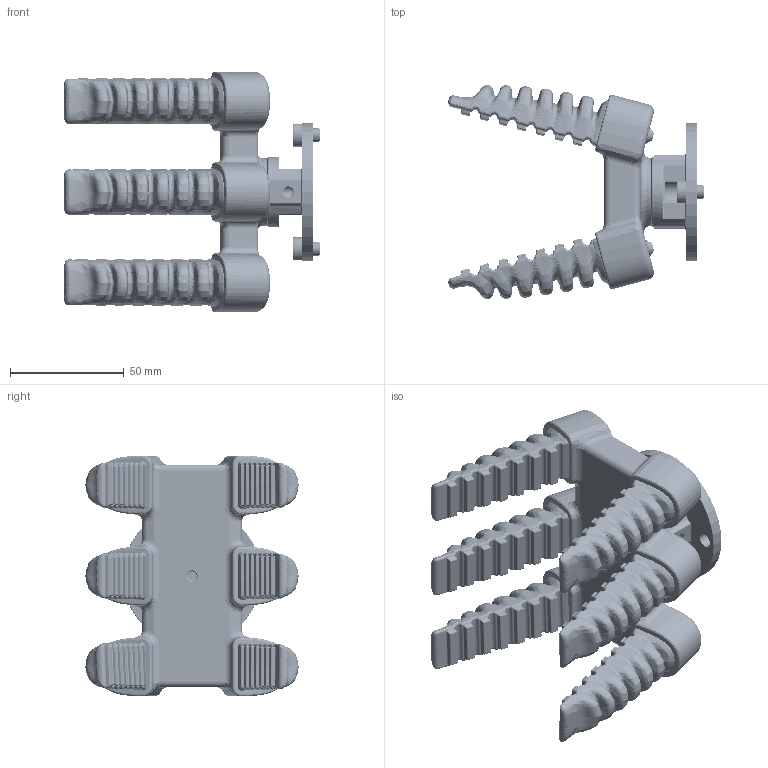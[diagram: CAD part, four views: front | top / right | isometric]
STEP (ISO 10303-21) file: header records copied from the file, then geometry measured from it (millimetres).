
FILE_DESCRIPTION (( 'STEP AP214' ), '1' );
FILE_NAME ('SG.IN.P.F6.S60.A67.D15.R50.STEP', '2022-03-28T12:50:30', ( '' ), ( '' ), 'SwSTEP 2.0', 'SolidWorks 2019', '' );
FILE_SCHEMA (( 'AUTOMOTIVE_DESIGN' ));
Length unit declared in the file: millimetre
Products named in the file (20): SG_FI.60; Finger_lang - gefuellt; SG.FI.SD; KVT 6238 M5-316; DIN 7984 I-6Kt Zyl-Schr. A2 M 6x8; O-Ring_28x1,5; SG.IN.P.F6.A67.D15; O-Ring_5x1,5; SG.IN.R50; o-Ring_3x1; SG.FI..IF; M3x20-ISO_7380-2; SG.IN.P.F6.S60.A67.D15.R50
Assembly tree (50 placements, depth 3):
  SG.IN.P.F6.S60.A67.D15.R50
    SG.IN.P.F6.A67.D15
      SG.IN.P.F6.A67.D15
      KVT 6238 M5-316  x3
      o-Ring_3x1  x6
      O-Ring_28x1,5
      O-Ring_5x1,5  x2
      M3x20-ISO_7380-2  x6
    SG_FI.60
      Finger_lang - gefuellt
      SG.FI..IF
      SG.FI.SD
    SG_FI.60
      Finger_lang - gefuellt
      SG.FI..IF
      SG.FI.SD
    SG_FI.60
      Finger_lang - gefuellt
      SG.FI..IF
      SG.FI.SD
    SG_FI.60
      Finger_lang - gefuellt
      SG.FI..IF
      SG.FI.SD
    SG_FI.60
      Finger_lang - gefuellt
      SG.FI..IF
      SG.FI.SD
    SG_FI.60
      Finger_lang - gefuellt
      SG.FI..IF
      SG.FI.SD
    SG.IN.R50
      SG.IN.R50
      DIN 7984 I-6Kt Zyl-Schr. A2 M 6x8  x2
      KVT 6238 M5-316  x2
Bounding box: 112.48 x 93.95 x 105.99 mm (x, y, z)
Volume: 257682.8 mm3; surface area: 116355.6 mm2
Topology: 42 solids, 42 shells, 5277 faces, 12913 edges, 7534 vertices
Faces by surface type: bspline 2636, cylinder 933, plane 730, sphere 548, torus 284, cone 146
Entity records: 145532 total; most frequent: CARTESIAN_POINT 106481, ORIENTED_EDGE 9030, DIRECTION 6573, EDGE_CURVE 4515, AXIS2_PLACEMENT_3D 2791, VERTEX_POINT 2688, EDGE_LOOP 2011, FACE_OUTER_BOUND 1890
